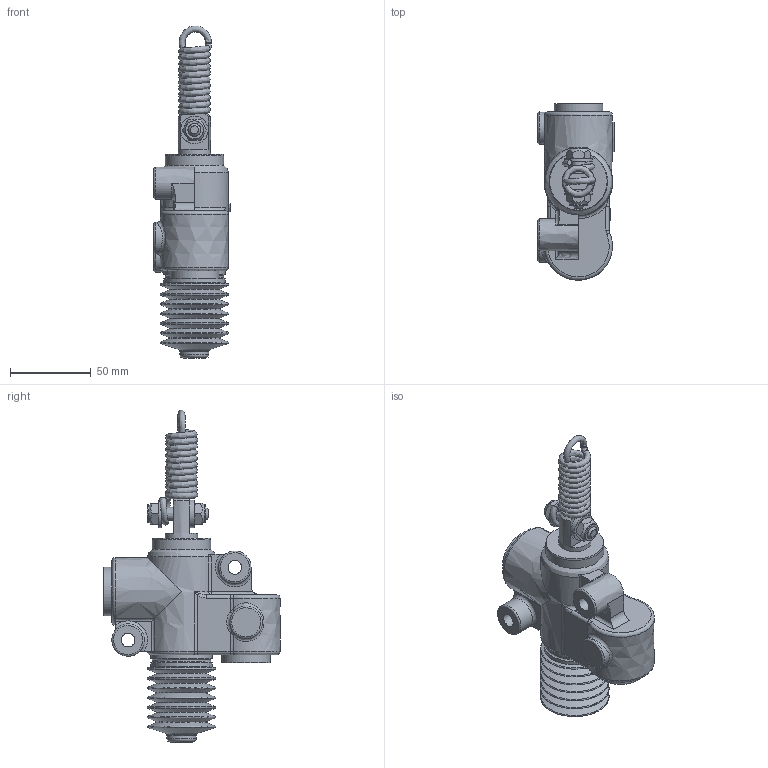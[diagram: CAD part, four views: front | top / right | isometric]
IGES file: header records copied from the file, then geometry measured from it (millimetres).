
Global section: file name: No Iges File Name specified; native system: Autodesk Inventor 2013; preprocessor: AutoDesk Inventor Iges Exporter R2013; author: christian.scardovi; date: 20240927.133437; units: millimetre
Bounding box: 47 x 108.99 x 205.22 mm (x, y, z)
Volume: 281218.6 mm3; surface area: 49916.8 mm2
Topology: 1 solids, 1 shells, 249 faces, 602 edges, 372 vertices
Faces by surface type: bspline 249
